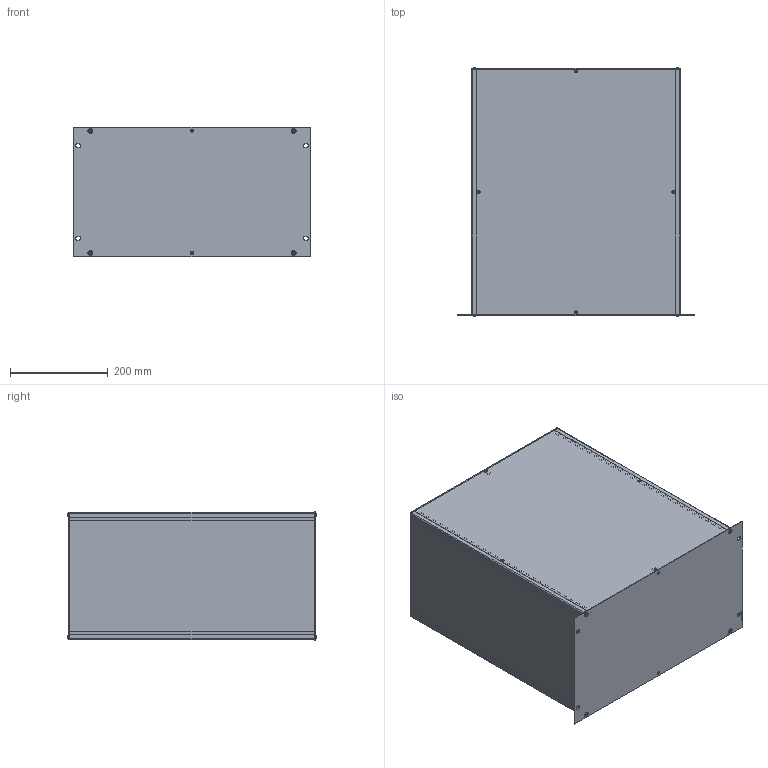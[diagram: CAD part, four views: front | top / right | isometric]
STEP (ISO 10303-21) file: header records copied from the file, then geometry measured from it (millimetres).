
FILE_DESCRIPTION(/* description */ (''),/* implementation_level */ '2;1');
FILE_NAME(/* name */ '//diskstation/Kunden/Gehäuse/Gehäuse/6HE/step/Zoll 6HE Rack Gehäuse Tiefe-500.step',/* time_stamp */ '2022-02-17T16:52:32+01:00',/* author */ (''),/* organization */ (''),/* preprocessor_version */ 'ST-DEVELOPER v18.1',/* originating_system */ 'Autodesk Translation Framework v10.10.0.1391',/* authorisation */ '');
FILE_SCHEMA (('AUTOMOTIVE_DESIGN { 1 0 10303 214 3 1 1 }'));
Length unit declared in the file: millimetre
Products named in the file (28): 6HE Gehäuse mit parametern; Gehäuse; Gehäuseprofil 1 unten links; Gehäuseprofil 2 oben rechts; Gehäuseprofil 1 unten rechts; Gehäuseprofil 2 oben links; Rückplatte; Deckel; Seitenteil links; Seitenteil rechts; Bodenplatte; Montageklotz Front/Deckel; Montageklotz Front/Boden; Montageklotz Rück/Deckel; Montageklotz Rück/Boden; Gewindestreifen; Frontplatte; Schrauben M5; Schraube Front; Schraube Front (1); Schraube Front (2); Schraube Front (3); Schraube Rück (1); Schraube Rück; Schraube Rück (2); Schraube Rück (3); Schrauben M3; HI_Senkschraube DIN 965 A v2 M3x5 24677.030.005(High)
Assembly tree (37 placements, depth 3):
  6HE Gehäuse mit parametern
    Gehäuse
      Gehäuseprofil 1 unten links
      Gehäuseprofil 2 oben rechts
      Gehäuseprofil 1 unten rechts
      Gehäuseprofil 2 oben links
      Rückplatte
      Deckel
      Seitenteil links
      Seitenteil rechts
      Bodenplatte
      Montageklotz Front/Deckel
      Montageklotz Front/Boden
      Montageklotz Rück/Deckel
      Montageklotz Rück/Boden
      Gewindestreifen  x2
    Frontplatte
    Schrauben M5
      Schraube Front
      Schraube Front (1)
      Schraube Front (2)
      Schraube Front (3)
      Schraube Rück (1)
      Schraube Rück
      Schraube Rück (2)
      Schraube Rück (3)
    Schrauben M3
      HI_Senkschraube DIN 965 A v2 M3x5 24677.030.005(High)  x10
Bounding box: 483 x 508.2 x 265 mm (x, y, z)
Volume: 2311864.5 mm3; surface area: 1996667.8 mm2
Topology: 34 solids, 34 shells, 944 faces, 2346 edges, 1470 vertices
Faces by surface type: cylinder 422, plane 342, cone 164, torus 8, bspline 8
Full cylindrical faces by diameter (mm): 2.529 x180, 3 x10, 3.2 x10, 4.234 x40, 5 x8, 5.2 x4, 5.3 x8, 5.6 x10, 9.5 x8
Entity records: 18600 total; most frequent: CARTESIAN_POINT 3348, DIRECTION 3135, ORIENTED_EDGE 2760, EDGE_CURVE 1380, AXIS2_PLACEMENT_3D 1195, VERTEX_POINT 868, EDGE_LOOP 866, LINE 745
